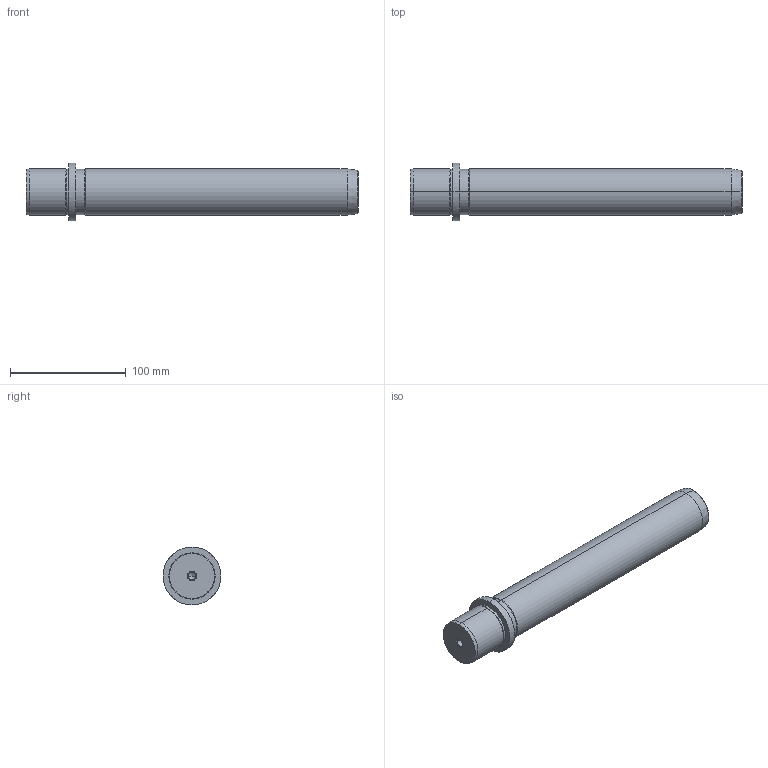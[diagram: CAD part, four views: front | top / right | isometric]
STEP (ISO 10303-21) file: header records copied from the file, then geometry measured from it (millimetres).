
FILE_DESCRIPTION(('CATIA V5 STEP Exchange'),'2;1');
FILE_NAME('C:\Users\Utente\Desktop\IO LAVORO\3D X SITO CF\X SITO\719\719-40x250.stp','2021-01-03T15:26:41+00:00',('none'),('none'),'CATIA Version 5 Release 20 GA (IN-10)','CATIA V5 STEP AP203','none');
FILE_SCHEMA(('CONFIG_CONTROL_DESIGN'));
Length unit declared in the file: millimetre
Products named in the file (1): 719-40x250
Bounding box: 287 x 50 x 50 mm (x, y, z)
Volume: 361636.8 mm3; surface area: 41031.7 mm2
Topology: 1 solids, 1 shells, 36 faces, 100 edges, 66 vertices
Faces by surface type: cone 16, cylinder 14, plane 4, torus 2
Entity records: 1267 total; most frequent: CARTESIAN_POINT 334, ORIENTED_EDGE 192, DIRECTION 159, EDGE_CURVE 96, AXIS2_PLACEMENT_3D 94, VERTEX_POINT 66, CIRCLE 57, EDGE_LOOP 40
